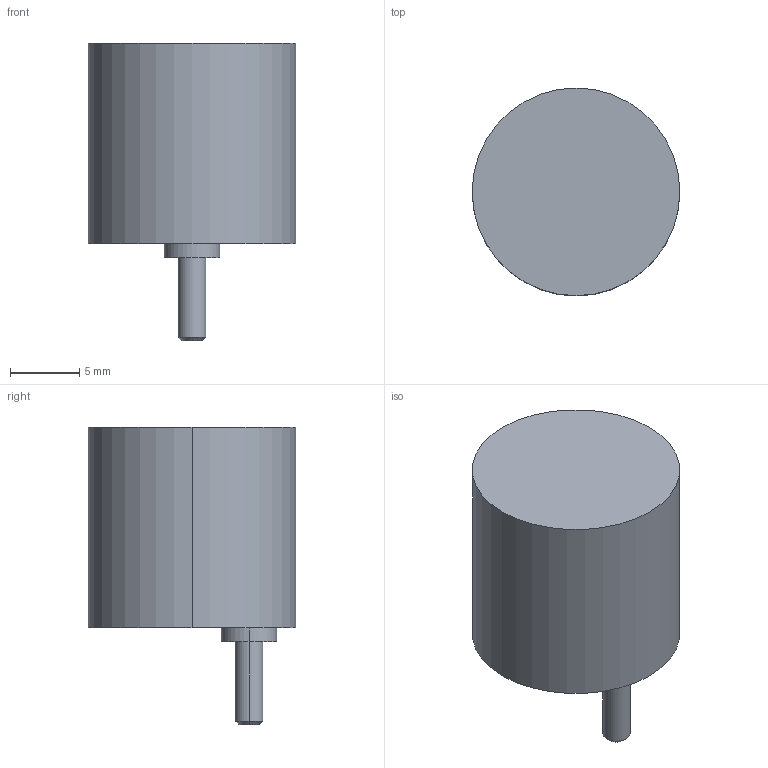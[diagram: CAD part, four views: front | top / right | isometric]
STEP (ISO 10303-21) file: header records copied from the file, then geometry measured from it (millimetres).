
FILE_DESCRIPTION(/* description */ ('VariCAD 2010-3.03 AP-214'),/* implementation_level */ '2;1');
FILE_NAME(/* name */ '0353-02-60',/* time_stamp */ '2011-01-17T18:34:57-07:00',/* author */ (''),/* organization */ (''),/* preprocessor_version */ 'ST-DEVELOPER v12',/* originating_system */ 'VariCAD 2010-3.03; kernel version (20100102)',/* authorisation */ '');
FILE_SCHEMA (('AUTOMOTIVE_DESIGN'));
Length unit declared in the file: millimetre
Products named in the file (1): Part
Bounding box: 15 x 15 x 21.5 mm (x, y, z)
Volume: 2588.8 mm3; surface area: 1124 mm2
Topology: 3 solids, 3 shells, 38 faces, 74 edges, 46 vertices
Faces by surface type: cylinder 22, plane 10, cone 6
Entity records: 1309 total; most frequent: DIRECTION 204, CARTESIAN_POINT 162, ORIENTED_EDGE 148, AXIS2_PLACEMENT_3D 88, EDGE_CURVE 74, EDGE_LOOP 46, CIRCLE 46, VERTEX_POINT 46
